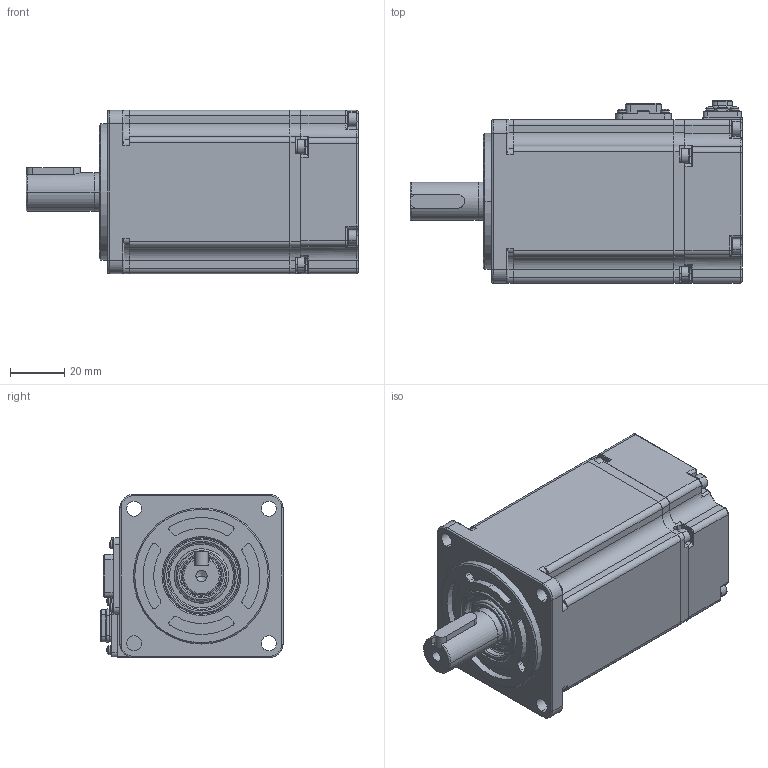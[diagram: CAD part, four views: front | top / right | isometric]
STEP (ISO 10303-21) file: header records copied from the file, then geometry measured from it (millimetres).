
FILE_DESCRIPTION (( 'STEP AP203' ), '1' );
FILE_NAME ('60X6-400W齬脣.STEP', '2023-12-01T06:37:13', ( '' ), ( '' ), 'SwSTEP 2.0', 'SolidWorks 2021', '' );
FILE_SCHEMA (( 'CONFIG_CONTROL_DESIGN' ));
Length unit declared in the file: millimetre
Products named in the file (14): socket head cap screw_iso_ISO 4762 M3 x 5 - 5N; 60綴傷裔; single coil lock washers light type gb_GB_FASTENER_WASHER_SSWL 3; spring lock washers--normal type gb_GB_FASTENER_WASHER_SW 2; 60す瑩; 60X6-0.63N 转轴（中航磁编）; pan head cross recess screw_iso_ISO 7045 - M1.6 x 3 - Z - 3N; 蚐猾(15X28X4); spring lock washers--normal type gb_GB_FASTENER_WASHER_SW 3; sc-mc6p-ah2g-14; sc-mc7p-a60g-18; 60一体机壳-配三竹插头_400W; 60X6方护罩（三竹）.step; 60X6-400W齬脣
Assembly tree (48 placements, depth 2):
  60X6-400W齬脣
    60一体机壳-配三竹插头_400W
    60綴傷裔
    60X6-0.63N 转轴（中航磁编）
    蚐猾(15X28X4)
    60す瑩
    single coil lock washers light type gb_GB_FASTENER_WASHER_SSWL 3  x8
    socket head cap screw_iso_ISO 4762 M3 x 5 - 5N  x12
    spring lock washers--normal type gb_GB_FASTENER_WASHER_SW 3  x4
    60X6方护罩（三竹）.step
    sc-mc6p-ah2g-14
    sc-mc7p-a60g-18
    spring lock washers--normal type gb_GB_FASTENER_WASHER_SW 2  x8
    pan head cross recess screw_iso_ISO 7045 - M1.6 x 3 - Z - 3N  x8
Bounding box: 122 x 66.95 x 60 mm (x, y, z)
Volume: 101387.2 mm3; surface area: 68729.6 mm2
Topology: 50 solids, 50 shells, 2843 faces, 7098 edges, 4443 vertices
Faces by surface type: plane 1575, cylinder 828, cone 213, torus 199, sphere 28
Entity records: 66504 total; most frequent: CARTESIAN_POINT 13230, ORIENTED_EDGE 10608, DIRECTION 10557, EDGE_CURVE 5304, AXIS2_PLACEMENT_3D 3584, VECTOR 3389, LINE 3389, VERTEX_POINT 3388
